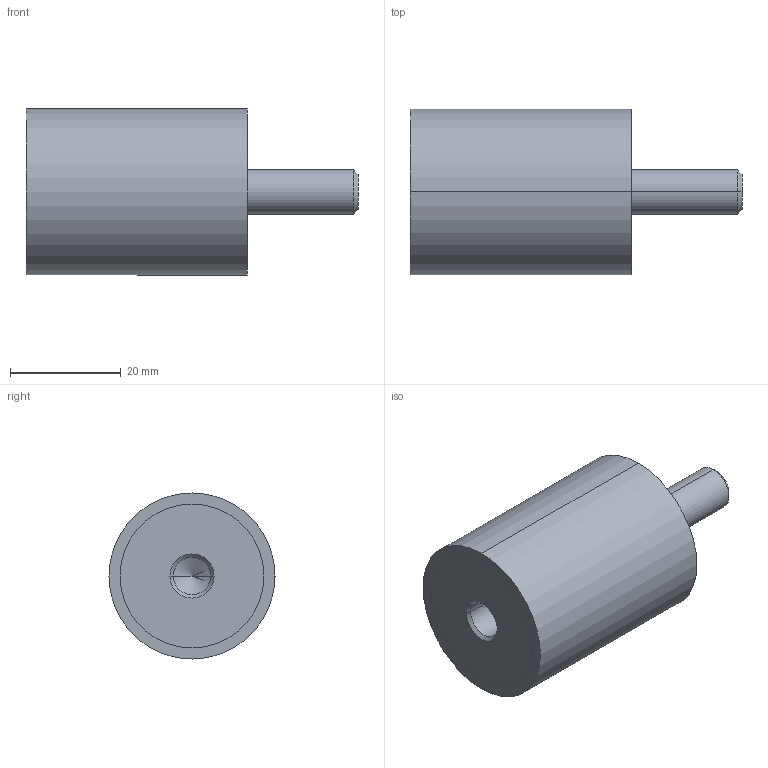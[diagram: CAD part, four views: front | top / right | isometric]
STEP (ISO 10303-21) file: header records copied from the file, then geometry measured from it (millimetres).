
FILE_DESCRIPTION (( 'STEP AP214' ), '1' );
FILE_NAME ('351-30-40-M8-ES-40.step', '2025-07-23T09:58:24', ( '' ), ( '' ), 'SwSTEP 2.0', 'SolidWorks 2022', '' );
FILE_SCHEMA (( 'AUTOMOTIVE_DESIGN' ));
Length unit declared in the file: millimetre
Products named in the file (1): 351-30-40-M8-ES-40
Bounding box: 60 x 30 x 30 mm (x, y, z)
Volume: 28908.8 mm3; surface area: 5865.9 mm2
Topology: 1 solids, 1 shells, 24 faces, 48 edges, 29 vertices
Faces by surface type: cylinder 12, cone 6, plane 6
Entity records: 740 total; most frequent: DIRECTION 124, CARTESIAN_POINT 100, ORIENTED_EDGE 92, AXIS2_PLACEMENT_3D 53, EDGE_CURVE 46, EDGE_LOOP 29, VERTEX_POINT 29, CIRCLE 28
